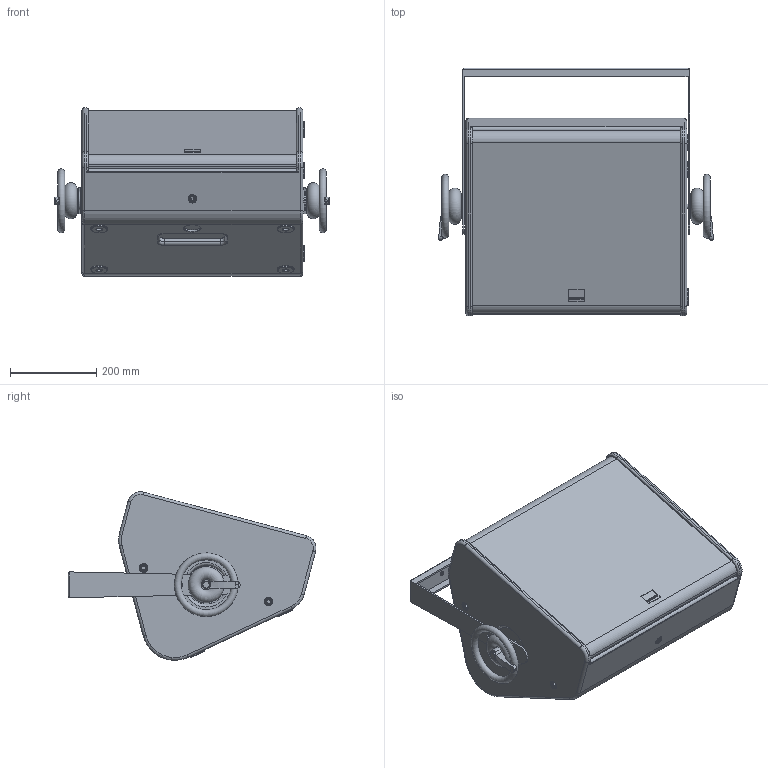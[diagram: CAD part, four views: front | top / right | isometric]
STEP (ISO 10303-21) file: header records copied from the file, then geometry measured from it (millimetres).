
FILE_DESCRIPTION (( 'STEP AP203' ), '1' );
FILE_NAME ('Seeburg_M5-Bracket-hor.STEP', '2012-10-17T11:02:00', ( 'Fabian' ), ( '' ), 'SwSTEP 2.0', 'SolidWorks 2009', '' );
FILE_SCHEMA (( 'CONFIG_CONTROL_DESIGN' ));
Length unit declared in the file: millimetre
Products named in the file (23): Imported103; Imported109; Imported108; Imported110; Imported115; Imported116; Imported121; Imported122; Seeburg_M5-Bracket-hor; M5-Bracket-hor; Imported102; Imported104; Imported105; Imported106; Imported107; Imported111; Imported112; Imported113; Imported114; Imported117; Imported118; Imported119; Imported120
Assembly tree (22 placements, depth 3):
  Seeburg_M5-Bracket-hor
    M5-Bracket-hor
      Imported111
      Imported117
      Imported108
      Imported121
      Imported102
      Imported105
      Imported112
      Imported107
      Imported109
      Imported116
      Imported118
      Imported110
      Imported113
      Imported114
      Imported115
      Imported119
      Imported104
      Imported120
      Imported106
      Imported103
      Imported122
Bounding box: 635.25 x 574.48 x 390.35 mm (x, y, z)
Volume: 17612741.8 mm3; surface area: 2374885.6 mm2
Topology: 29 solids, 29 shells, 874 faces, 2186 edges, 1415 vertices
Faces by surface type: cylinder 411, plane 264, cone 113, torus 82, bspline 4
Entity records: 32565 total; most frequent: CARTESIAN_POINT 8420, DIRECTION 4870, ORIENTED_EDGE 4348, EDGE_CURVE 2174, AXIS2_PLACEMENT_3D 1953, VERTEX_POINT 1409, CIRCLE 1057, EDGE_LOOP 1035
